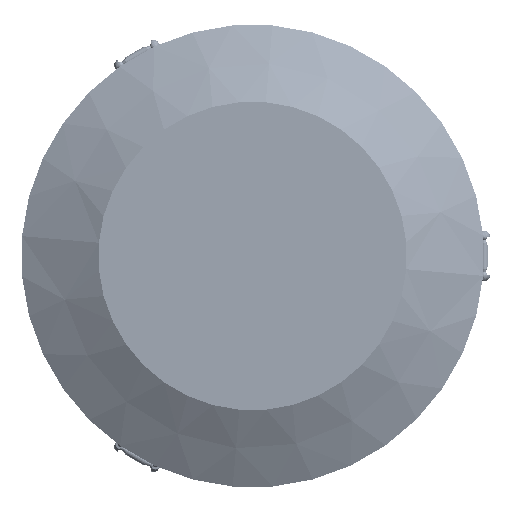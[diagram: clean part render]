
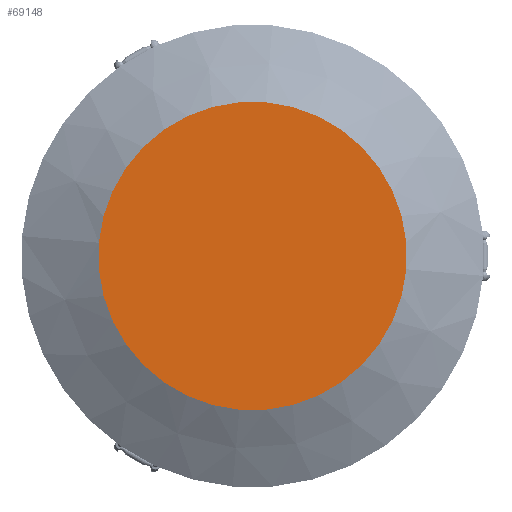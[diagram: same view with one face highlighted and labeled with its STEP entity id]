
A CAD part, front view. The second image highlights one B-rep face of the part: STEP entity #69148.
In plain terms, the highlighted planar face has unit normal (0, -1, 0).
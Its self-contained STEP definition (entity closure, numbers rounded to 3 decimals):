
#69148=ADVANCED_FACE('NONE',(#152738),#152739,.F.);
#152738=FACE_OUTER_BOUND('',#316356,.T.);
#152739=PLANE('',#316357);
#316356=EDGE_LOOP('',(#574637,#574638));
#316357=AXIS2_PLACEMENT_3D('',#574639,#574640,#574641);
#574637=ORIENTED_EDGE('',*,*,#753087,.F.);
#574638=ORIENTED_EDGE('',*,*,#753108,.F.);
#574639=CARTESIAN_POINT('',(0.,-1006.0,0.));
#574640=DIRECTION('',(0.,1.0,0.));
#574641=DIRECTION('',(1.0,0.0,0.));
#753087=EDGE_CURVE('NONE',#891575,#891576,#891577,.T.);
#753108=EDGE_CURVE('NONE',#891576,#891575,#891604,.T.);
#891575=VERTEX_POINT('NONE',#1137245);
#891576=VERTEX_POINT('NONE',#1137246);
#891577=CIRCLE('',#1137247,400.0);
#891604=CIRCLE('',#1137280,400.0);
#1137245=CARTESIAN_POINT('',(-398.523,-1006.0,34.341));
#1137246=CARTESIAN_POINT('',(398.523,-1006.0,-34.341));
#1137247=AXIS2_PLACEMENT_3D('',#1336873,#1336874,#1336875);
#1137280=AXIS2_PLACEMENT_3D('',#1336903,#1336904,#1336905);
#1336873=CARTESIAN_POINT('',(0.,-1006.0,0.));
#1336874=DIRECTION('',(0.,1.0,0.));
#1336875=DIRECTION('',(-0.996,0.0,0.086));
#1336903=CARTESIAN_POINT('',(0.,-1006.0,0.));
#1336904=DIRECTION('',(0.,1.0,0.));
#1336905=DIRECTION('',(-0.996,0.0,0.086));
